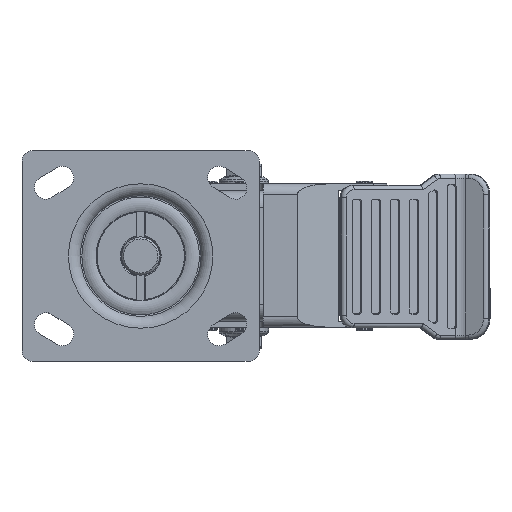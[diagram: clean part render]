
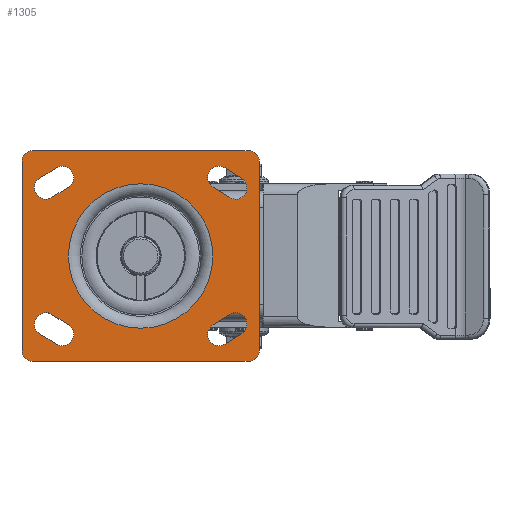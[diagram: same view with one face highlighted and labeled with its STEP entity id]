
A CAD part, top view. The second image highlights one B-rep face of the part: STEP entity #1305.
In plain terms, the highlighted planar face has unit normal (0, 0, 1).
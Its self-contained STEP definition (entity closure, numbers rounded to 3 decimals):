
#188=CARTESIAN_POINT('',(-59.013,387.558,-68.732));
#189=VERTEX_POINT('',#188);
#190=CARTESIAN_POINT('',(-94.013,387.558,-68.732));
#191=DIRECTION('',(0.0,0.0,-1.0));
#192=DIRECTION('',(1.0,0.0,0.0));
#193=AXIS2_PLACEMENT_3D('',#190,#191,#192);
#194=CIRCLE('',#193,35.);
#195=EDGE_CURVE('',#189,#189,#194,.T.);
#510=CARTESIAN_POINT('',(-58.928,420.894,-68.732));
#511=VERTEX_POINT('',#510);
#518=CARTESIAN_POINT('',(-50.928,415.894,-68.732));
#519=VERTEX_POINT('',#518);
#520=CARTESIAN_POINT('',(-50.928,415.894,-68.732));
#521=DIRECTION('',(-0.848,0.53,0.0));
#522=VECTOR('',#521,9.434);
#523=LINE('',#520,#522);
#524=EDGE_CURVE('',#519,#511,#523,.T.);
#550=CARTESIAN_POINT('',(-45.098,425.222,-68.732));
#551=VERTEX_POINT('',#550);
#552=CARTESIAN_POINT('',(-48.013,420.558,-68.732));
#553=DIRECTION('',(0.0,0.0,-1.0));
#554=DIRECTION('',(1.0,0.0,0.0));
#555=AXIS2_PLACEMENT_3D('',#552,#553,#554);
#556=CIRCLE('',#555,5.5);
#557=EDGE_CURVE('',#551,#519,#556,.T.);
#582=CARTESIAN_POINT('',(-53.098,430.222,-68.732));
#583=VERTEX_POINT('',#582);
#584=CARTESIAN_POINT('',(-53.098,430.222,-68.732));
#585=DIRECTION('',(0.848,-0.53,0.0));
#586=VECTOR('',#585,9.434);
#587=LINE('',#584,#586);
#588=EDGE_CURVE('',#583,#551,#587,.T.);
#612=CARTESIAN_POINT('',(-56.013,425.558,-68.732));
#613=DIRECTION('',(0.0,0.0,-1.0));
#614=DIRECTION('',(1.0,0.0,0.0));
#615=AXIS2_PLACEMENT_3D('',#612,#613,#614);
#616=CIRCLE('',#615,5.5);
#617=EDGE_CURVE('',#511,#583,#616,.T.);
#639=CARTESIAN_POINT('',(-36.513,341.558,-68.732));
#640=VERTEX_POINT('',#639);
#647=CARTESIAN_POINT('',(-41.513,336.558,-68.732));
#648=VERTEX_POINT('',#647);
#649=CARTESIAN_POINT('',(-41.513,341.558,-68.732));
#650=DIRECTION('',(0.0,0.0,1.0));
#651=DIRECTION('',(1.0,0.0,0.0));
#652=AXIS2_PLACEMENT_3D('',#649,#650,#651);
#653=CIRCLE('',#652,5.0);
#654=EDGE_CURVE('',#648,#640,#653,.T.);
#679=CARTESIAN_POINT('',(-146.513,336.558,-68.732));
#680=VERTEX_POINT('',#679);
#681=CARTESIAN_POINT('',(-146.513,336.558,-68.732));
#682=DIRECTION('',(1.0,0.0,0.0));
#683=VECTOR('',#682,105.);
#684=LINE('',#681,#683);
#685=EDGE_CURVE('',#680,#648,#684,.T.);
#711=CARTESIAN_POINT('',(-151.513,341.558,-68.732));
#712=VERTEX_POINT('',#711);
#713=CARTESIAN_POINT('',(-146.513,341.558,-68.732));
#714=DIRECTION('',(0.0,0.0,1.0));
#715=DIRECTION('',(1.0,0.0,0.0));
#716=AXIS2_PLACEMENT_3D('',#713,#714,#715);
#717=CIRCLE('',#716,5.0);
#718=EDGE_CURVE('',#712,#680,#717,.T.);
#743=CARTESIAN_POINT('',(-151.513,433.558,-68.732));
#744=VERTEX_POINT('',#743);
#745=CARTESIAN_POINT('',(-151.513,433.558,-68.732));
#746=DIRECTION('',(0.0,-1.0,0.0));
#747=VECTOR('',#746,92.);
#748=LINE('',#745,#747);
#749=EDGE_CURVE('',#744,#712,#748,.T.);
#775=CARTESIAN_POINT('',(-146.513,438.558,-68.732));
#776=VERTEX_POINT('',#775);
#777=CARTESIAN_POINT('',(-146.513,433.558,-68.732));
#778=DIRECTION('',(0.0,0.0,1.0));
#779=DIRECTION('',(1.0,0.0,0.0));
#780=AXIS2_PLACEMENT_3D('',#777,#778,#779);
#781=CIRCLE('',#780,5.0);
#782=EDGE_CURVE('',#776,#744,#781,.T.);
#807=CARTESIAN_POINT('',(-41.513,438.558,-68.732));
#808=VERTEX_POINT('',#807);
#809=CARTESIAN_POINT('',(-41.513,438.558,-68.732));
#810=DIRECTION('',(-1.0,0.0,0.0));
#811=VECTOR('',#810,105.);
#812=LINE('',#809,#811);
#813=EDGE_CURVE('',#808,#776,#812,.T.);
#839=CARTESIAN_POINT('',(-36.513,433.558,-68.732));
#840=VERTEX_POINT('',#839);
#841=CARTESIAN_POINT('',(-41.513,433.558,-68.732));
#842=DIRECTION('',(0.0,0.0,1.0));
#843=DIRECTION('',(1.0,0.0,0.0));
#844=AXIS2_PLACEMENT_3D('',#841,#842,#843);
#845=CIRCLE('',#844,5.0);
#846=EDGE_CURVE('',#840,#808,#845,.T.);
#869=CARTESIAN_POINT('',(-36.513,341.558,-68.732));
#870=DIRECTION('',(0.0,1.0,0.0));
#871=VECTOR('',#870,92.);
#872=LINE('',#869,#871);
#873=EDGE_CURVE('',#640,#840,#872,.T.);
#894=CARTESIAN_POINT('',(-129.098,354.222,-68.732));
#895=VERTEX_POINT('',#894);
#902=CARTESIAN_POINT('',(-137.098,359.222,-68.732));
#903=VERTEX_POINT('',#902);
#904=CARTESIAN_POINT('',(-137.098,359.222,-68.732));
#905=DIRECTION('',(0.848,-0.53,0.0));
#906=VECTOR('',#905,9.434);
#907=LINE('',#904,#906);
#908=EDGE_CURVE('',#903,#895,#907,.T.);
#934=CARTESIAN_POINT('',(-142.928,349.894,-68.732));
#935=VERTEX_POINT('',#934);
#936=CARTESIAN_POINT('',(-140.013,354.558,-68.732));
#937=DIRECTION('',(0.0,0.0,-1.0));
#938=DIRECTION('',(1.0,0.0,0.0));
#939=AXIS2_PLACEMENT_3D('',#936,#937,#938);
#940=CIRCLE('',#939,5.5);
#941=EDGE_CURVE('',#935,#903,#940,.T.);
#966=CARTESIAN_POINT('',(-134.928,344.894,-68.732));
#967=VERTEX_POINT('',#966);
#968=CARTESIAN_POINT('',(-134.928,344.894,-68.732));
#969=DIRECTION('',(-0.848,0.53,0.0));
#970=VECTOR('',#969,9.434);
#971=LINE('',#968,#970);
#972=EDGE_CURVE('',#967,#935,#971,.T.);
#996=CARTESIAN_POINT('',(-132.013,349.558,-68.732));
#997=DIRECTION('',(0.0,0.0,-1.0));
#998=DIRECTION('',(1.0,0.0,0.0));
#999=AXIS2_PLACEMENT_3D('',#996,#997,#998);
#1000=CIRCLE('',#999,5.5);
#1001=EDGE_CURVE('',#895,#967,#1000,.T.);
#1022=CARTESIAN_POINT('',(-134.928,430.222,-68.732));
#1023=VERTEX_POINT('',#1022);
#1030=CARTESIAN_POINT('',(-142.928,425.222,-68.732));
#1031=VERTEX_POINT('',#1030);
#1032=CARTESIAN_POINT('',(-142.928,425.222,-68.732));
#1033=DIRECTION('',(0.848,0.53,0.0));
#1034=VECTOR('',#1033,9.434);
#1035=LINE('',#1032,#1034);
#1036=EDGE_CURVE('',#1031,#1023,#1035,.T.);
#1062=CARTESIAN_POINT('',(-137.098,415.894,-68.732));
#1063=VERTEX_POINT('',#1062);
#1064=CARTESIAN_POINT('',(-140.013,420.558,-68.732));
#1065=DIRECTION('',(0.0,0.0,-1.0));
#1066=DIRECTION('',(1.0,0.0,0.0));
#1067=AXIS2_PLACEMENT_3D('',#1064,#1065,#1066);
#1068=CIRCLE('',#1067,5.5);
#1069=EDGE_CURVE('',#1063,#1031,#1068,.T.);
#1094=CARTESIAN_POINT('',(-129.098,420.894,-68.732));
#1095=VERTEX_POINT('',#1094);
#1096=CARTESIAN_POINT('',(-129.098,420.894,-68.732));
#1097=DIRECTION('',(-0.848,-0.53,0.0));
#1098=VECTOR('',#1097,9.434);
#1099=LINE('',#1096,#1098);
#1100=EDGE_CURVE('',#1095,#1063,#1099,.T.);
#1124=CARTESIAN_POINT('',(-132.013,425.558,-68.732));
#1125=DIRECTION('',(0.0,0.0,-1.0));
#1126=DIRECTION('',(1.0,0.0,0.0));
#1127=AXIS2_PLACEMENT_3D('',#1124,#1125,#1126);
#1128=CIRCLE('',#1127,5.5);
#1129=EDGE_CURVE('',#1023,#1095,#1128,.T.);
#1150=CARTESIAN_POINT('',(-53.098,344.894,-68.732));
#1151=VERTEX_POINT('',#1150);
#1158=CARTESIAN_POINT('',(-45.098,349.894,-68.732));
#1159=VERTEX_POINT('',#1158);
#1160=CARTESIAN_POINT('',(-45.098,349.894,-68.732));
#1161=DIRECTION('',(-0.848,-0.53,0.0));
#1162=VECTOR('',#1161,9.434);
#1163=LINE('',#1160,#1162);
#1164=EDGE_CURVE('',#1159,#1151,#1163,.T.);
#1190=CARTESIAN_POINT('',(-50.928,359.222,-68.732));
#1191=VERTEX_POINT('',#1190);
#1192=CARTESIAN_POINT('',(-48.013,354.558,-68.732));
#1193=DIRECTION('',(0.0,0.0,-1.0));
#1194=DIRECTION('',(1.0,0.0,0.0));
#1195=AXIS2_PLACEMENT_3D('',#1192,#1193,#1194);
#1196=CIRCLE('',#1195,5.5);
#1197=EDGE_CURVE('',#1191,#1159,#1196,.T.);
#1222=CARTESIAN_POINT('',(-58.928,354.222,-68.732));
#1223=VERTEX_POINT('',#1222);
#1224=CARTESIAN_POINT('',(-58.928,354.222,-68.732));
#1225=DIRECTION('',(0.848,0.53,0.0));
#1226=VECTOR('',#1225,9.434);
#1227=LINE('',#1224,#1226);
#1228=EDGE_CURVE('',#1223,#1191,#1227,.T.);
#1252=CARTESIAN_POINT('',(-56.013,349.558,-68.732));
#1253=DIRECTION('',(0.0,0.0,-1.0));
#1254=DIRECTION('',(1.0,0.0,0.0));
#1255=AXIS2_PLACEMENT_3D('',#1252,#1253,#1254);
#1256=CIRCLE('',#1255,5.5);
#1257=EDGE_CURVE('',#1151,#1223,#1256,.T.);
#1263=CARTESIAN_POINT('',(-26.513,387.558,-68.732));
#1264=DIRECTION('',(0.0,0.0,1.0));
#1265=DIRECTION('',(1.0,0.0,0.0));
#1266=AXIS2_PLACEMENT_3D('',#1263,#1264,#1265);
#1267=PLANE('',#1266);
#1268=ORIENTED_EDGE('',*,*,#782,.T.);
#1269=ORIENTED_EDGE('',*,*,#749,.T.);
#1270=ORIENTED_EDGE('',*,*,#718,.T.);
#1271=ORIENTED_EDGE('',*,*,#685,.T.);
#1272=ORIENTED_EDGE('',*,*,#654,.T.);
#1273=ORIENTED_EDGE('',*,*,#873,.T.);
#1274=ORIENTED_EDGE('',*,*,#846,.T.);
#1275=ORIENTED_EDGE('',*,*,#813,.T.);
#1276=EDGE_LOOP('',(#1268,#1269,#1270,#1271,#1272,#1273,#1274,#1275));
#1277=FACE_OUTER_BOUND('',#1276,.T.);
#1278=ORIENTED_EDGE('',*,*,#588,.T.);
#1279=ORIENTED_EDGE('',*,*,#557,.T.);
#1280=ORIENTED_EDGE('',*,*,#524,.T.);
#1281=ORIENTED_EDGE('',*,*,#617,.T.);
#1282=EDGE_LOOP('',(#1278,#1279,#1280,#1281));
#1283=FACE_BOUND('',#1282,.T.);
#1284=ORIENTED_EDGE('',*,*,#972,.T.);
#1285=ORIENTED_EDGE('',*,*,#941,.T.);
#1286=ORIENTED_EDGE('',*,*,#908,.T.);
#1287=ORIENTED_EDGE('',*,*,#1001,.T.);
#1288=EDGE_LOOP('',(#1284,#1285,#1286,#1287));
#1289=FACE_BOUND('',#1288,.T.);
#1290=ORIENTED_EDGE('',*,*,#1100,.T.);
#1291=ORIENTED_EDGE('',*,*,#1069,.T.);
#1292=ORIENTED_EDGE('',*,*,#1036,.T.);
#1293=ORIENTED_EDGE('',*,*,#1129,.T.);
#1294=EDGE_LOOP('',(#1290,#1291,#1292,#1293));
#1295=FACE_BOUND('',#1294,.T.);
#1296=ORIENTED_EDGE('',*,*,#1228,.T.);
#1297=ORIENTED_EDGE('',*,*,#1197,.T.);
#1298=ORIENTED_EDGE('',*,*,#1164,.T.);
#1299=ORIENTED_EDGE('',*,*,#1257,.T.);
#1300=EDGE_LOOP('',(#1296,#1297,#1298,#1299));
#1301=FACE_BOUND('',#1300,.T.);
#1302=ORIENTED_EDGE('',*,*,#195,.T.);
#1303=EDGE_LOOP('',(#1302));
#1304=FACE_BOUND('',#1303,.T.);
#1305=ADVANCED_FACE('',(#1277,#1283,#1289,#1295,#1301,#1304),#1267,.T.);
